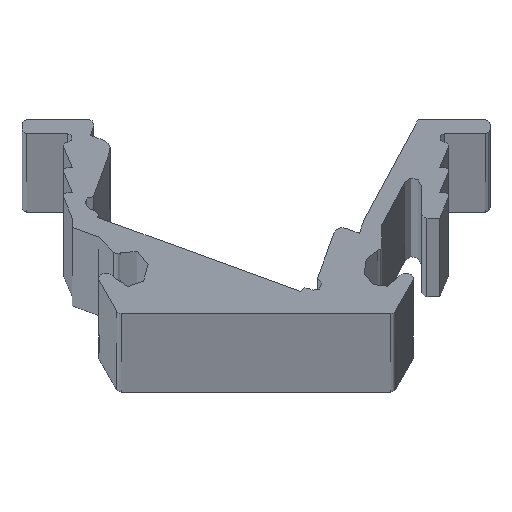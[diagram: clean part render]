
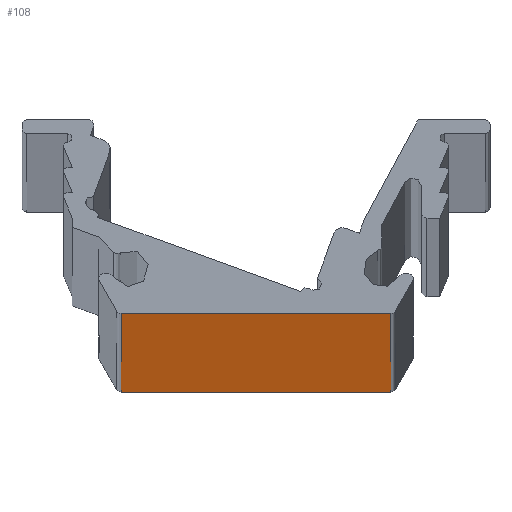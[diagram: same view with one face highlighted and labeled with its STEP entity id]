
A CAD part, top view. The second image highlights one B-rep face of the part: STEP entity #108.
In plain terms, the highlighted planar face has unit normal (0, -1, 0).
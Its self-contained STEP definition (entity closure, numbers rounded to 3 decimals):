
#55=PLANE('',#1526);
#108=ADVANCED_FACE('',(#212),#55,.T.);
#212=FACE_OUTER_BOUND('',#285,.T.);
#285=EDGE_LOOP('',(#732,#733,#734,#735));
#384=LINE('',#2182,#535);
#385=LINE('',#2186,#536);
#386=LINE('',#2188,#537);
#387=LINE('',#2190,#538);
#535=VECTOR('',#1755,1.);
#536=VECTOR('',#1760,1.);
#537=VECTOR('',#1761,1.);
#538=VECTOR('',#1762,1.);
#732=ORIENTED_EDGE('',*,*,#1277,.F.);
#733=ORIENTED_EDGE('',*,*,#1278,.F.);
#734=ORIENTED_EDGE('',*,*,#1279,.T.);
#735=ORIENTED_EDGE('',*,*,#1275,.T.);
#1110=VERTEX_POINT('',#2181);
#1111=VERTEX_POINT('',#2183);
#1112=VERTEX_POINT('',#2187);
#1113=VERTEX_POINT('',#2189);
#1275=EDGE_CURVE('',#1111,#1110,#384,.T.);
#1277=EDGE_CURVE('',#1112,#1110,#385,.T.);
#1278=EDGE_CURVE('',#1113,#1112,#386,.T.);
#1279=EDGE_CURVE('',#1113,#1111,#387,.T.);
#1526=AXIS2_PLACEMENT_3D('',#2191,#1763,#1764);
#1755=DIRECTION('',(0.,0.,-1.));
#1760=DIRECTION('',(-1.,0.,0.));
#1761=DIRECTION('',(0.,0.,-1.));
#1762=DIRECTION('',(-1.,0.,0.));
#1763=DIRECTION('',(0.,-1.,0.));
#1764=DIRECTION('',(0.,0.,-1.));
#2181=CARTESIAN_POINT('',(-25.15,100.986,0.));
#2182=CARTESIAN_POINT('',(-25.15,100.986,10.));
#2183=CARTESIAN_POINT('',(-25.15,100.986,2500.));
#2186=CARTESIAN_POINT('',(-10.171,100.986,0.));
#2187=CARTESIAN_POINT('',(-10.171,100.986,0.));
#2188=CARTESIAN_POINT('',(-10.171,100.986,10.));
#2189=CARTESIAN_POINT('',(-10.171,100.986,2500.));
#2190=CARTESIAN_POINT('',(-10.171,100.986,2500.));
#2191=CARTESIAN_POINT('',(-10.171,100.986,10.));
